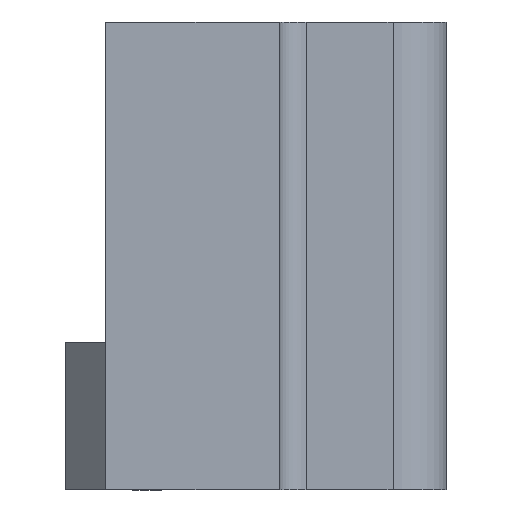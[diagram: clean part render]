
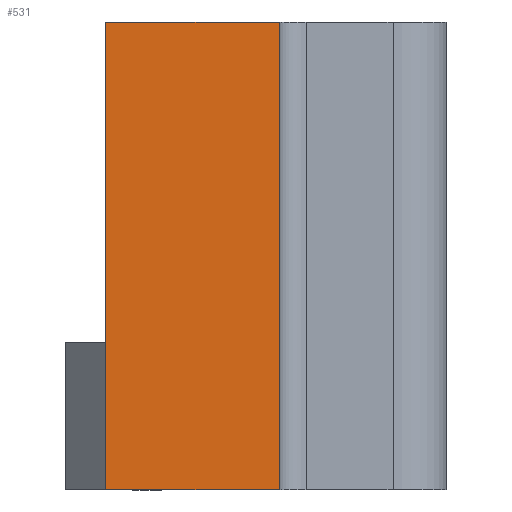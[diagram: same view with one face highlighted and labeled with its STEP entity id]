
A CAD part, front view. The second image highlights one B-rep face of the part: STEP entity #531.
In plain terms, the highlighted planar face has unit normal (0, -1, 0).
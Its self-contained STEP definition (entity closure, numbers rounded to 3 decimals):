
#510=AXIS2_PLACEMENT_3D('Plane Axis2P3D',#507,#508,#509) ;
#257=CARTESIAN_POINT('Vertex',(-21.5,-6.,2.)) ;
#260=CARTESIAN_POINT('Line Origine',(-21.5,-6.,14.)) ;
#264=CARTESIAN_POINT('Vertex',(-21.5,-6.,26.)) ;
#374=CARTESIAN_POINT('Line Origine',(-15.,-6.,26.)) ;
#378=CARTESIAN_POINT('Vertex',(-8.5,-6.,26.)) ;
#432=CARTESIAN_POINT('Line Origine',(-8.5,-6.,8.5)) ;
#436=CARTESIAN_POINT('Vertex',(-8.5,-6.,-9.)) ;
#507=CARTESIAN_POINT('Axis2P3D Location',(-24.5,-6.,-2.)) ;
#512=CARTESIAN_POINT('Line Origine',(-15.,-6.,-9.)) ;
#516=CARTESIAN_POINT('Vertex',(-21.5,-6.,-9.)) ;
#519=CARTESIAN_POINT('Line Origine',(-21.5,-6.,-3.5)) ;
#261=DIRECTION('Vector Direction',(0.,0.,-1.)) ;
#375=DIRECTION('Vector Direction',(1.,0.,0.)) ;
#433=DIRECTION('Vector Direction',(0.,0.,-1.)) ;
#508=DIRECTION('Axis2P3D Direction',(0.,-1.,0.)) ;
#509=DIRECTION('Axis2P3D XDirection',(1.,0.,0.)) ;
#513=DIRECTION('Vector Direction',(1.,0.,0.)) ;
#520=DIRECTION('Vector Direction',(0.,0.,-1.)) ;
#262=VECTOR('Line Direction',#261,1.) ;
#376=VECTOR('Line Direction',#375,1.) ;
#434=VECTOR('Line Direction',#433,1.) ;
#514=VECTOR('Line Direction',#513,1.) ;
#521=VECTOR('Line Direction',#520,1.) ;
#525=ORIENTED_EDGE('',*,*,#518,.F.) ;
#526=ORIENTED_EDGE('',*,*,#438,.T.) ;
#527=ORIENTED_EDGE('',*,*,#380,.T.) ;
#528=ORIENTED_EDGE('',*,*,#266,.T.) ;
#529=ORIENTED_EDGE('',*,*,#523,.F.) ;
#531=ADVANCED_FACE('PartBody',(#530),#511,.T.) ;
#266=EDGE_CURVE('',#265,#258,#263,.T.) ;
#380=EDGE_CURVE('',#379,#265,#377,.F.) ;
#438=EDGE_CURVE('',#437,#379,#435,.F.) ;
#518=EDGE_CURVE('',#437,#517,#515,.F.) ;
#523=EDGE_CURVE('',#517,#258,#522,.F.) ;
#524=EDGE_LOOP('',(#525,#526,#527,#528,#529)) ;
#530=FACE_OUTER_BOUND('',#524,.T.) ;
#263=LINE('Line',#260,#262) ;
#377=LINE('Line',#374,#376) ;
#435=LINE('Line',#432,#434) ;
#515=LINE('Line',#512,#514) ;
#522=LINE('Line',#519,#521) ;
#511=PLANE('',#510) ;
#258=VERTEX_POINT('',#257) ;
#265=VERTEX_POINT('',#264) ;
#379=VERTEX_POINT('',#378) ;
#437=VERTEX_POINT('',#436) ;
#517=VERTEX_POINT('',#516) ;
